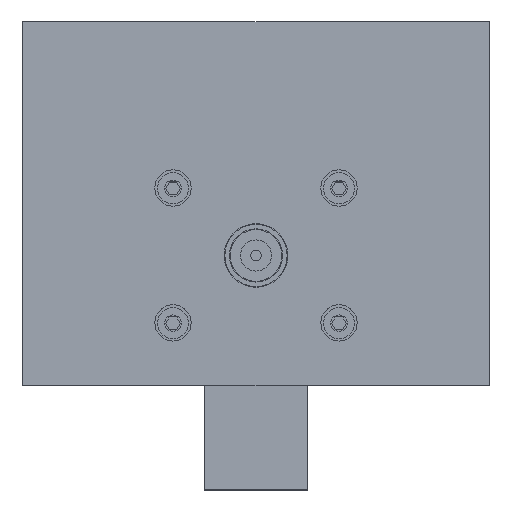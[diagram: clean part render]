
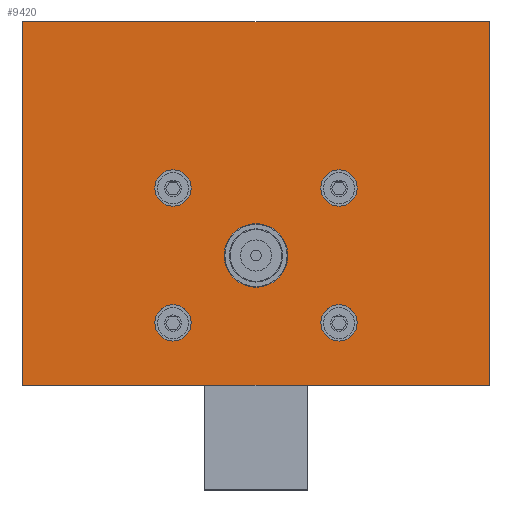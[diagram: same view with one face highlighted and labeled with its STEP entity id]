
A CAD part, top view. The second image highlights one B-rep face of the part: STEP entity #9420.
In plain terms, the highlighted planar face has unit normal (0, 0, 1).
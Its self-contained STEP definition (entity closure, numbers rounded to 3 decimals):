
#9285 = VERTEX_POINT('',#9286);
#9286 = CARTESIAN_POINT('',(-290.,-150.,456.));
#9292 = EDGE_CURVE('',#9285,#9293,#9295,.T.);
#9293 = VERTEX_POINT('',#9294);
#9294 = CARTESIAN_POINT('',(-110.,-150.,456.));
#9295 = LINE('',#9296,#9297);
#9296 = CARTESIAN_POINT('',(-600.,-150.,456.));
#9297 = VECTOR('',#9298,1.);
#9298 = DIRECTION('',(1.,0.,0.));
#9401 = VERTEX_POINT('',#9402);
#9402 = CARTESIAN_POINT('',(-110.,-10.,456.));
#9408 = EDGE_CURVE('',#9293,#9401,#9409,.T.);
#9409 = LINE('',#9410,#9411);
#9410 = CARTESIAN_POINT('',(-110.,-170.,456.));
#9411 = VECTOR('',#9412,1.);
#9412 = DIRECTION('',(0.,1.,0.));
#9420 = ADVANCED_FACE('',(#9421,#9439,#9450,#9461,#9472,#9483),#9494,.T.
  );
#9421 = FACE_BOUND('',#9422,.T.);
#9422 = EDGE_LOOP('',(#9423,#9431,#9432,#9433));
#9423 = ORIENTED_EDGE('',*,*,#9424,.F.);
#9424 = EDGE_CURVE('',#9285,#9425,#9427,.T.);
#9425 = VERTEX_POINT('',#9426);
#9426 = CARTESIAN_POINT('',(-290.,-10.,456.));
#9427 = LINE('',#9428,#9429);
#9428 = CARTESIAN_POINT('',(-290.,-170.,456.));
#9429 = VECTOR('',#9430,1.);
#9430 = DIRECTION('',(0.,1.,0.));
#9431 = ORIENTED_EDGE('',*,*,#9292,.T.);
#9432 = ORIENTED_EDGE('',*,*,#9408,.T.);
#9433 = ORIENTED_EDGE('',*,*,#9434,.T.);
#9434 = EDGE_CURVE('',#9401,#9425,#9435,.T.);
#9435 = LINE('',#9436,#9437);
#9436 = CARTESIAN_POINT('',(-445.,-10.,456.));
#9437 = VECTOR('',#9438,1.);
#9438 = DIRECTION('',(-1.,0.,0.));
#9439 = FACE_BOUND('',#9440,.T.);
#9440 = EDGE_LOOP('',(#9441));
#9441 = ORIENTED_EDGE('',*,*,#9442,.F.);
#9442 = EDGE_CURVE('',#9443,#9443,#9445,.T.);
#9443 = VERTEX_POINT('',#9444);
#9444 = CARTESIAN_POINT('',(-225.,-126.,456.));
#9445 = CIRCLE('',#9446,7.);
#9446 = AXIS2_PLACEMENT_3D('',#9447,#9448,#9449);
#9447 = CARTESIAN_POINT('',(-232.,-126.,456.));
#9448 = DIRECTION('',(0.,0.,1.));
#9449 = DIRECTION('',(1.,0.,0.));
#9450 = FACE_BOUND('',#9451,.T.);
#9451 = EDGE_LOOP('',(#9452));
#9452 = ORIENTED_EDGE('',*,*,#9453,.F.);
#9453 = EDGE_CURVE('',#9454,#9454,#9456,.T.);
#9454 = VERTEX_POINT('',#9455);
#9455 = CARTESIAN_POINT('',(-161.,-126.,456.));
#9456 = CIRCLE('',#9457,7.);
#9457 = AXIS2_PLACEMENT_3D('',#9458,#9459,#9460);
#9458 = CARTESIAN_POINT('',(-168.,-126.,456.));
#9459 = DIRECTION('',(0.,0.,1.));
#9460 = DIRECTION('',(1.,0.,0.));
#9461 = FACE_BOUND('',#9462,.T.);
#9462 = EDGE_LOOP('',(#9463));
#9463 = ORIENTED_EDGE('',*,*,#9464,.F.);
#9464 = EDGE_CURVE('',#9465,#9465,#9467,.T.);
#9465 = VERTEX_POINT('',#9466);
#9466 = CARTESIAN_POINT('',(-187.75,-100.,456.));
#9467 = CIRCLE('',#9468,12.25);
#9468 = AXIS2_PLACEMENT_3D('',#9469,#9470,#9471);
#9469 = CARTESIAN_POINT('',(-200.,-100.,456.));
#9470 = DIRECTION('',(0.,0.,1.));
#9471 = DIRECTION('',(1.,0.,0.));
#9472 = FACE_BOUND('',#9473,.T.);
#9473 = EDGE_LOOP('',(#9474));
#9474 = ORIENTED_EDGE('',*,*,#9475,.F.);
#9475 = EDGE_CURVE('',#9476,#9476,#9478,.T.);
#9476 = VERTEX_POINT('',#9477);
#9477 = CARTESIAN_POINT('',(-225.,-74.,456.));
#9478 = CIRCLE('',#9479,7.);
#9479 = AXIS2_PLACEMENT_3D('',#9480,#9481,#9482);
#9480 = CARTESIAN_POINT('',(-232.,-74.,456.));
#9481 = DIRECTION('',(0.,0.,1.));
#9482 = DIRECTION('',(1.,0.,0.));
#9483 = FACE_BOUND('',#9484,.T.);
#9484 = EDGE_LOOP('',(#9485));
#9485 = ORIENTED_EDGE('',*,*,#9486,.F.);
#9486 = EDGE_CURVE('',#9487,#9487,#9489,.T.);
#9487 = VERTEX_POINT('',#9488);
#9488 = CARTESIAN_POINT('',(-161.,-74.,456.));
#9489 = CIRCLE('',#9490,7.);
#9490 = AXIS2_PLACEMENT_3D('',#9491,#9492,#9493);
#9491 = CARTESIAN_POINT('',(-168.,-74.,456.));
#9492 = DIRECTION('',(0.,0.,1.));
#9493 = DIRECTION('',(1.,0.,0.));
#9494 = PLANE('',#9495);
#9495 = AXIS2_PLACEMENT_3D('',#9496,#9497,#9498);
#9496 = CARTESIAN_POINT('',(-600.,-150.,456.));
#9497 = DIRECTION('',(0.,0.,1.));
#9498 = DIRECTION('',(1.,0.,0.));
